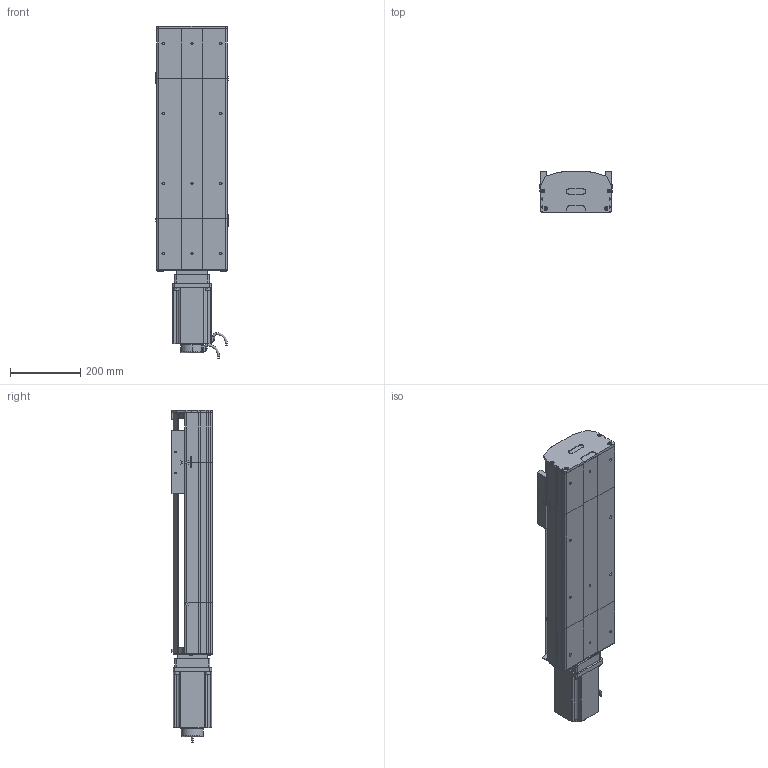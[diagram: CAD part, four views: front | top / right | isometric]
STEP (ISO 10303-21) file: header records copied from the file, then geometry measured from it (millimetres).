
FILE_DESCRIPTION (( 'STEP AP214' ), '1' );
FILE_NAME ('D20 TSH MD S400.STEP', '2010-06-30T08:29:26', ( 'Conseil Régional Haute-Normandie' ), ( 'Conseil Régional Haute-Normandie' ), 'SwSTEP 2.0', 'SolidWorks 2010', '' );
FILE_SCHEMA (( 'AUTOMOTIVE_DESIGN' ));
Length unit declared in the file: millimetre
Products named in the file (33): Chariot D20; chariot D20S_Default; tete d''axe haut D20; vis M5 L8 90°_Default; 2 vis M5 L12_Default; vis M5 L25_Default; plaque de  bout tail D20_Default; couvercle tail D20_Default; Arbre+rail tail D20; vis M5 L12_Default; guide D20; corp D20 S400_Default; course D20 L400_Default; D20 TSH MD S400; rail + arbre  D20 S400; head MD D20_Default; plaque de  bout head MD D20_Default; corpl head MD D20_Default; tail D20 S_Default; clavette; corpl tail D20_Default; Plaque racord D20_Default; Moteur motionking 110BLDC170A-640x; tete d''axe bas D20; couvercle D20 S400_Default; vis M8 L12_Default; avant 110BLDC170A-630x; corps 110BLDC170A-630x; couvercle head l D20_Default; Arbre+rail head D20; Conecteur_Default; Conecteur2_Default; codeur 110BLDC170A-630x
Assembly tree (56 placements, depth 4):
  D20 TSH MD S400
    tail D20 S_Default
      plaque de  bout tail D20_Default
      2 vis M5 L12_Default  x4
      Arbre+rail tail D20
      tete d''axe haut D20
      corpl tail D20_Default
      tete d''axe bas D20
      couvercle tail D20_Default
      vis M5 L8 90°_Default  x2
      vis M5 L25_Default  x2
    head MD D20_Default
      Arbre+rail head D20
      plaque de  bout head MD D20_Default
      vis M8 L12_Default  x4
      vis M5 L12_Default  x4
      vis M5 L25_Default  x2
      2 vis M5 L12_Default  x6
      Plaque racord D20_Default
      corpl head MD D20_Default
      couvercle head l D20_Default
      Moteur motionking 110BLDC170A-640x
        Conecteur2_Default
        avant 110BLDC170A-630x
        clavette
        codeur 110BLDC170A-630x
        corps 110BLDC170A-630x
        Conecteur_Default
    chariot D20S_Default
      vis M5 L12_Default  x4
      Chariot D20
      guide D20  x2
    course D20 L400_Default
      couvercle D20 S400_Default
      rail + arbre  D20 S400
      corp D20 S400_Default
Bounding box: 206 x 115.7 x 948.5 mm (x, y, z)
Volume: 8435912.7 mm3; surface area: 1650896.6 mm2
Topology: 81 solids, 81 shells, 2194 faces, 5466 edges, 3535 vertices
Faces by surface type: plane 1334, cylinder 584, bspline 136, torus 73, cone 67
Entity records: 71157 total; most frequent: CARTESIAN_POINT 23470, ORIENTED_EDGE 8336, DIRECTION 7817, EDGE_CURVE 4168, LINE 2809, VECTOR 2809, VERTEX_POINT 2747, AXIS2_PLACEMENT_3D 2504
